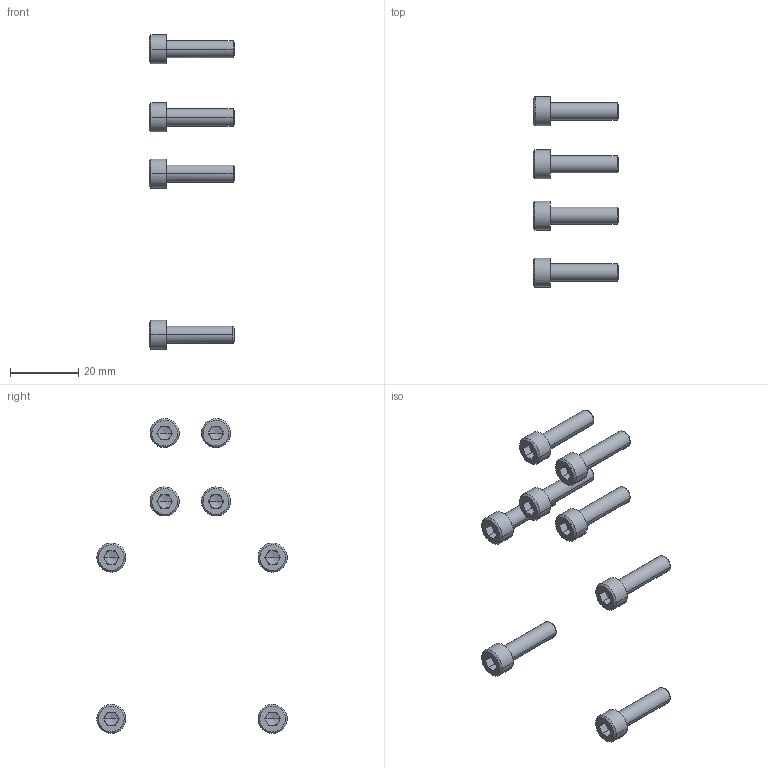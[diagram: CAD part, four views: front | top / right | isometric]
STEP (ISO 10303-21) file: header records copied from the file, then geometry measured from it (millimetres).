
FILE_DESCRIPTION(/* description */ (''),/* implementation_level */ '2;1');
FILE_NAME(/* name */ 'Y-FEBF~1',/* time_stamp */ '2014-02-14T19:39:17+01:00',/* author */ (''),/* organization */ (''),/* preprocessor_version */ 'ST-DEVELOPER v14',/* originating_system */ '',/* authorisation */ '');
FILE_SCHEMA (('AUTOMOTIVE_DESIGN'));
Length unit declared in the file: millimetre
Products named in the file (2): Document; screw DIN912-like, M5x20
Assembly tree (8 placements, depth 2):
  Document
    screw DIN912-like, M5x20  x8
Bounding box: 25.05 x 55.7 x 92.09 mm (x, y, z)
Volume: 5093 mm3; surface area: 4669.8 mm2
Topology: 8 solids, 8 shells, 200 faces, 448 edges, 264 vertices
Faces by surface type: plane 120, bspline 80
Entity records: 1461 total; most frequent: CARTESIAN_POINT 639, B_SPLINE_CURVE_WITH_KNOTS 126, ORIENTED_EDGE 108, PCURVE 108, DEFINITIONAL_REPRESENTATION 108, SURFACE_CURVE 54, EDGE_CURVE 54, DIRECTION 37
